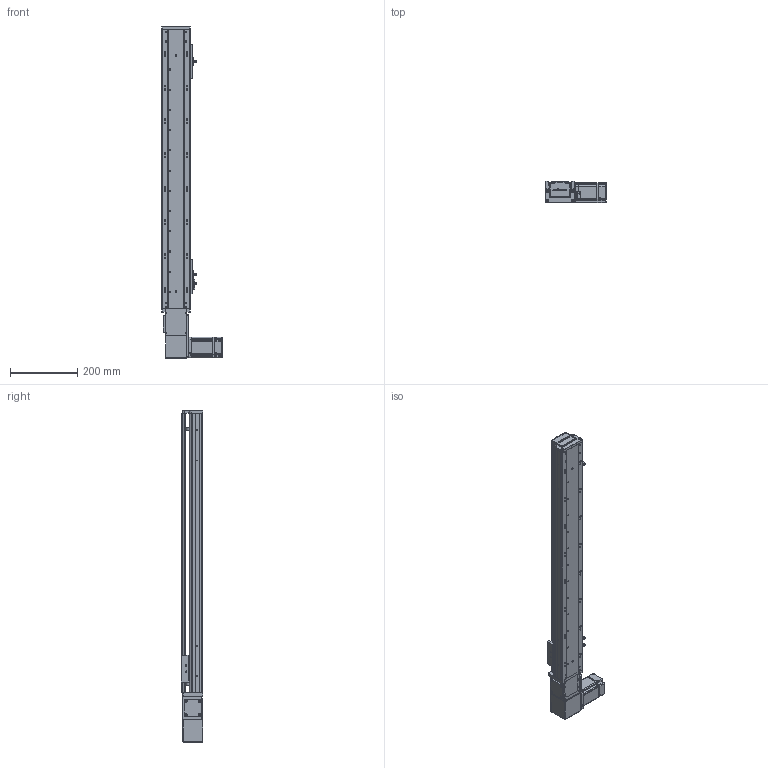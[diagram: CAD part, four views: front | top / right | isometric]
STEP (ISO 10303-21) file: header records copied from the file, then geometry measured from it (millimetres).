
FILE_DESCRIPTION (( 'STEP AP203' ), '1' );
FILE_NAME ('RY80-T-300-RK.SLDASM_650.step', '2021-03-01T02:06:48', ( '盈信电脑' ), ( '东莞市道滘镇水果街19号' ), 'SwSTEP 2.0', 'SolidWorks 2012', '' );
FILE_SCHEMA (( 'CONFIG_CONTROL_DESIGN' ));
Length unit declared in the file: millimetre
Products named in the file (20): RY80-T翋肮祭謫裔啣; RY80-T肮祭謫俋欶; RY80-T-M4蹟翐; 滅袉蝶18-10; RY80-T肮祭湍揤輸2; RY80-T粣創揤踡輸; RY80-T肮祭湍揤輸1; 侂狟200W萇儂; RY80-T-翋肮祭謫釱; 1; RY80-T萇儂假蚾啣; 672嫖萇羲壽假蚾釱; 覜茼ん672; RY80-T綴裔啣; RY80俋离覜茼え; RY80-T肮祭謫臏賑輸; RY80-T-300-RK倰第奻裔啣_650; RY80-T-300-RK倰第菁釱_650; RY100-T粣創揤踡裔; RY80-T-300-RK.SLDASM_650
Assembly tree (25 placements, depth 3):
  RY80-T-300-RK.SLDASM_650
    RY80-T-300-RK倰第菁釱_650
    RY80-T肮祭謫臏賑輸
    RY80-T-300-RK倰第奻裔啣_650
    RY80-T綴裔啣
    672嫖萇羲壽假蚾釱  x2
    覜茼ん672  x3
    RY80俋离覜茼え
    侂狟200W萇儂
      1
    RY80-T-翋肮祭謫釱
    RY80-T萇儂假蚾啣
    RY80-T肮祭湍揤輸1
    RY80-T肮祭湍揤輸2
    RY80-T粣創揤踡輸
    RY80-T-M4蹟翐  x2
    RY80-T翋肮祭謫裔啣  x2
    RY80-T肮祭謫俋欶
    滅袉蝶18-10  x2
    RY100-T粣創揤踡裔
Bounding box: 180 x 65 x 985 mm (x, y, z)
Volume: 1736409.2 mm3; surface area: 712519.7 mm2
Topology: 24 solids, 24 shells, 2515 faces, 6936 edges, 4507 vertices
Faces by surface type: plane 1340, cylinder 969, cone 150, bspline 56
Entity records: 79486 total; most frequent: CARTESIAN_POINT 19515, ORIENTED_EDGE 12316, DIRECTION 11542, EDGE_CURVE 6158, VERTEX_POINT 4048, AXIS2_PLACEMENT_3D 3891, LINE 3760, VECTOR 3760
